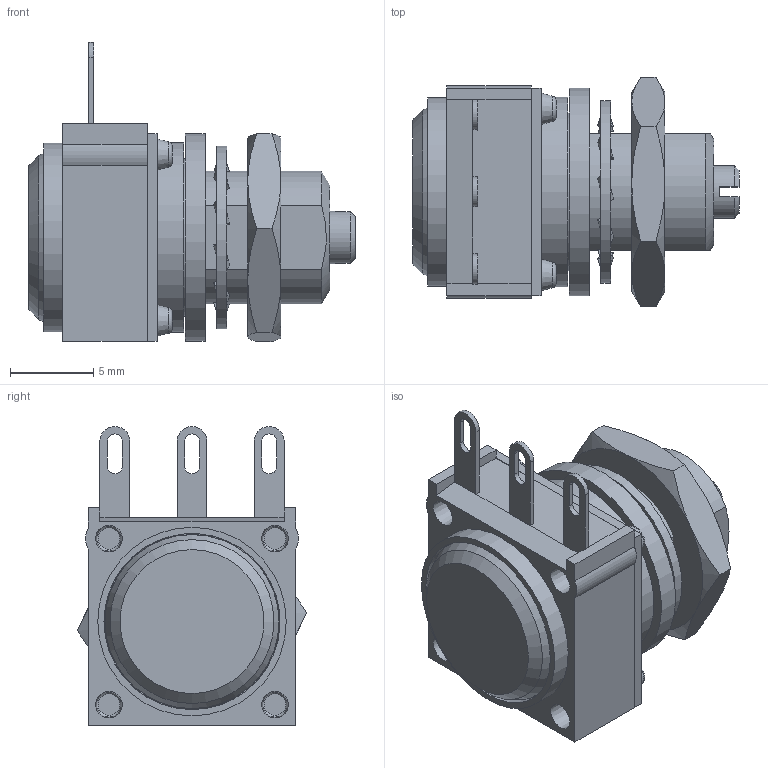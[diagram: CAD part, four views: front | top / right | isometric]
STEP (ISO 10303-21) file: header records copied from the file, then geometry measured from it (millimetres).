
FILE_DESCRIPTION(/* description */ ('Unknown'),/* implementation_level */ '2;1');
FILE_NAME(/* name */ 'P11S1G0BASY00502MA',/* time_stamp */ '2022-07-28T08:37:29+02:00',/* author */ ('MEB'),/* organization */ ('VISHAY'),/* preprocessor_version */ 'ST-DEVELOPER v16.7',/* originating_system */ 'DEX',/* authorisation */ $);
FILE_SCHEMA (('AUTOMOTIVE_DESIGN {1 0 10303 214 3 1 1}'));
Length unit declared in the file: millimetre
Products named in the file (10): P11S1G0BASY00502MA; AXE_BAS_ETA_ACODIFIER; 3652520; M1-Y00-502_oa_0; 3650993; bande à chas; 3650540; 3652780; 3652600; 0683708
Assembly tree (9 placements, depth 3):
  P11S1G0BASY00502MA
    AXE_BAS_ETA_ACODIFIER
    3652520
    M1-Y00-502_oa_0
      3650993
      bande à chas
    3650540
    3652780
    3652600
    0683708
Bounding box: 19.66 x 13.81 x 18.01 mm (x, y, z)
Volume: 1350.6 mm3; surface area: 3188.6 mm2
Topology: 13 solids, 13 shells, 520 faces, 1386 edges, 913 vertices
Faces by surface type: plane 263, cylinder 156, bspline 48, cone 45, torus 8
Full cylindrical faces by diameter (mm): 1.3 x4, 1.5 x10, 1.55 x4, 3 x2, 3.17 x1, 3.5 x1, 4.1 x2, 4.8 x3, 5.25 x1, 6.4 x1, 7.188 x1, 7.42 x1, 7.44 x1, 8.4 x1, 9.5 x2, 9.65 x1, 10.6 x1, 11 x1, 11.35 x1, 11.4 x1, 12.5 x1
Entity records: 17052 total; most frequent: CARTESIAN_POINT 3968, ORIENTED_EDGE 2566, DIRECTION 2449, EDGE_CURVE 1283, VERTEX_POINT 883, AXIS2_PLACEMENT_3D 876, LINE 697, VECTOR 697
